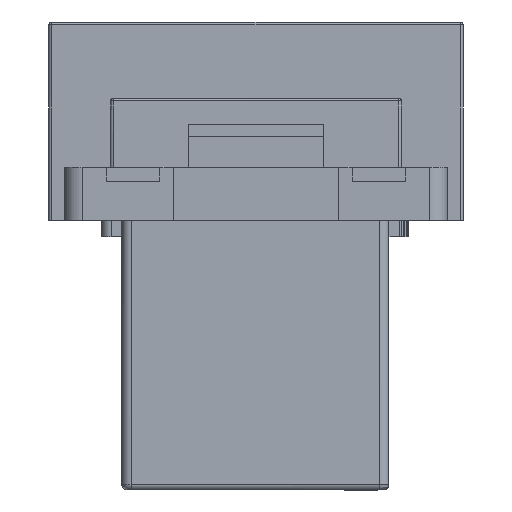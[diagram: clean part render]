
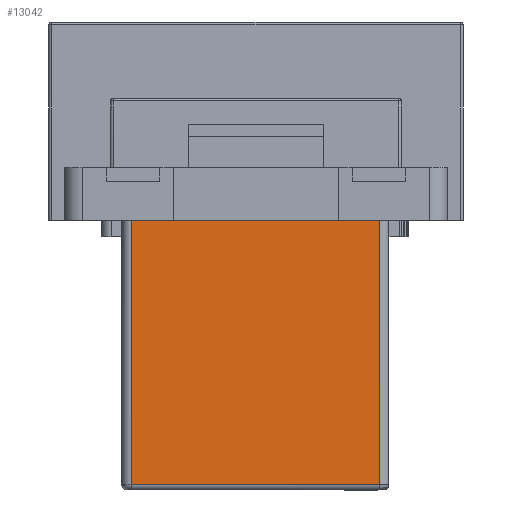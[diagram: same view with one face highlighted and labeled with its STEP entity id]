
A CAD part, front view. The second image highlights one B-rep face of the part: STEP entity #13042.
In plain terms, the highlighted free-form (B-spline) face has degree [1, 1] with [2, 2] control points.
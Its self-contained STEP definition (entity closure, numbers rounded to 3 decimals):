
#5731 = VERTEX_POINT('',#5732);
#5732 = CARTESIAN_POINT('',(7.998,2.306,0.));
#5743 = VERTEX_POINT('',#5744);
#5744 = CARTESIAN_POINT('',(7.998,12.298,0.));
#5753 = EDGE_CURVE('',#5731,#5743,#5754,.T.);
#5754 = B_SPLINE_CURVE_WITH_KNOTS('',5,(#5755,#5756,#5757,#5758,#5759,
    #5760),.UNSPECIFIED.,.F.,.F.,(6,6),(0.,9.991),
  .PIECEWISE_BEZIER_KNOTS.);
#5755 = CARTESIAN_POINT('',(7.998,2.306,0.));
#5756 = CARTESIAN_POINT('',(7.998,4.304,0.));
#5757 = CARTESIAN_POINT('',(7.998,6.303,0.));
#5758 = CARTESIAN_POINT('',(7.998,8.301,0.));
#5759 = CARTESIAN_POINT('',(7.998,10.299,0.));
#5760 = CARTESIAN_POINT('',(7.998,12.298,0.));
#5771 = VERTEX_POINT('',#5772);
#5772 = CARTESIAN_POINT('',(7.002,11.298,0.));
#5783 = VERTEX_POINT('',#5784);
#5784 = CARTESIAN_POINT('',(7.002,3.306,0.));
#5793 = EDGE_CURVE('',#5771,#5783,#5794,.T.);
#5794 = B_SPLINE_CURVE_WITH_KNOTS('',5,(#5795,#5796,#5797,#5798,#5799,
    #5800),.UNSPECIFIED.,.F.,.F.,(6,6),(0.,7.991),
  .PIECEWISE_BEZIER_KNOTS.);
#5795 = CARTESIAN_POINT('',(7.002,11.298,0.));
#5796 = CARTESIAN_POINT('',(7.002,9.699,0.));
#5797 = CARTESIAN_POINT('',(7.002,8.101,0.));
#5798 = CARTESIAN_POINT('',(7.002,6.503,0.));
#5799 = CARTESIAN_POINT('',(7.002,4.904,0.));
#5800 = CARTESIAN_POINT('',(7.002,3.306,0.));
#5811 = VERTEX_POINT('',#5812);
#5812 = CARTESIAN_POINT('',(5.502,12.298,0.));
#5823 = VERTEX_POINT('',#5824);
#5824 = CARTESIAN_POINT('',(5.502,11.298,0.));
#5833 = EDGE_CURVE('',#5811,#5823,#5834,.T.);
#5834 = B_SPLINE_CURVE_WITH_KNOTS('',5,(#5835,#5836,#5837,#5838,#5839,
    #5840),.UNSPECIFIED.,.F.,.F.,(6,6),(0.,1.),
  .PIECEWISE_BEZIER_KNOTS.);
#5835 = CARTESIAN_POINT('',(5.502,12.298,0.));
#5836 = CARTESIAN_POINT('',(5.502,12.098,0.));
#5837 = CARTESIAN_POINT('',(5.502,11.898,0.));
#5838 = CARTESIAN_POINT('',(5.502,11.698,0.));
#5839 = CARTESIAN_POINT('',(5.502,11.498,0.));
#5840 = CARTESIAN_POINT('',(5.502,11.298,0.));
#5851 = EDGE_CURVE('',#5823,#5771,#5852,.T.);
#5852 = B_SPLINE_CURVE_WITH_KNOTS('',5,(#5853,#5854,#5855,#5856,#5857,
    #5858),.UNSPECIFIED.,.F.,.F.,(6,6),(0.,1.499),
  .PIECEWISE_BEZIER_KNOTS.);
#5853 = CARTESIAN_POINT('',(5.502,11.298,0.));
#5854 = CARTESIAN_POINT('',(5.802,11.298,0.));
#5855 = CARTESIAN_POINT('',(6.102,11.298,0.));
#5856 = CARTESIAN_POINT('',(6.402,11.298,0.));
#5857 = CARTESIAN_POINT('',(6.702,11.298,0.));
#5858 = CARTESIAN_POINT('',(7.002,11.298,0.));
#5870 = EDGE_CURVE('',#5743,#5811,#5871,.T.);
#5871 = B_SPLINE_CURVE_WITH_KNOTS('',5,(#5872,#5873,#5874,#5875,#5876,
    #5877),.UNSPECIFIED.,.F.,.F.,(6,6),(0.,2.496),
  .PIECEWISE_BEZIER_KNOTS.);
#5872 = CARTESIAN_POINT('',(7.998,12.298,0.));
#5873 = CARTESIAN_POINT('',(7.499,12.298,0.));
#5874 = CARTESIAN_POINT('',(7.,12.298,0.));
#5875 = CARTESIAN_POINT('',(6.501,12.298,0.));
#5876 = CARTESIAN_POINT('',(6.001,12.298,0.));
#5877 = CARTESIAN_POINT('',(5.502,12.298,0.));
#5890 = VERTEX_POINT('',#5891);
#5891 = CARTESIAN_POINT('',(5.502,2.306,0.));
#5900 = EDGE_CURVE('',#5901,#5890,#5903,.T.);
#5901 = VERTEX_POINT('',#5902);
#5902 = CARTESIAN_POINT('',(5.502,3.306,0.));
#5903 = B_SPLINE_CURVE_WITH_KNOTS('',5,(#5904,#5905,#5906,#5907,#5908,
    #5909),.UNSPECIFIED.,.F.,.F.,(6,6),(0.,1.),
  .PIECEWISE_BEZIER_KNOTS.);
#5904 = CARTESIAN_POINT('',(5.502,3.306,0.));
#5905 = CARTESIAN_POINT('',(5.502,3.106,0.));
#5906 = CARTESIAN_POINT('',(5.502,2.906,0.));
#5907 = CARTESIAN_POINT('',(5.502,2.706,0.));
#5908 = CARTESIAN_POINT('',(5.502,2.506,0.));
#5909 = CARTESIAN_POINT('',(5.502,2.306,0.));
#5931 = EDGE_CURVE('',#5783,#5901,#5932,.T.);
#5932 = B_SPLINE_CURVE_WITH_KNOTS('',5,(#5933,#5934,#5935,#5936,#5937,
    #5938),.UNSPECIFIED.,.F.,.F.,(6,6),(0.,1.499),
  .PIECEWISE_BEZIER_KNOTS.);
#5933 = CARTESIAN_POINT('',(7.002,3.306,0.));
#5934 = CARTESIAN_POINT('',(6.702,3.306,0.));
#5935 = CARTESIAN_POINT('',(6.402,3.306,0.));
#5936 = CARTESIAN_POINT('',(6.102,3.306,0.));
#5937 = CARTESIAN_POINT('',(5.802,3.306,0.));
#5938 = CARTESIAN_POINT('',(5.502,3.306,0.));
#5948 = EDGE_CURVE('',#5890,#5731,#5949,.T.);
#5949 = B_SPLINE_CURVE_WITH_KNOTS('',5,(#5950,#5951,#5952,#5953,#5954,
    #5955),.UNSPECIFIED.,.F.,.F.,(6,6),(0.,2.496),
  .PIECEWISE_BEZIER_KNOTS.);
#5950 = CARTESIAN_POINT('',(5.502,2.306,0.));
#5951 = CARTESIAN_POINT('',(6.001,2.306,0.));
#5952 = CARTESIAN_POINT('',(6.501,2.306,0.));
#5953 = CARTESIAN_POINT('',(7.,2.306,0.));
#5954 = CARTESIAN_POINT('',(7.499,2.306,0.));
#5955 = CARTESIAN_POINT('',(7.998,2.306,0.));
#12063 = VERTEX_POINT('',#12064);
#12064 = CARTESIAN_POINT('',(24.7,0.5,0.));
#12163 = VERTEX_POINT('',#12164);
#12164 = CARTESIAN_POINT('',(24.7,14.103,0.));
#12269 = EDGE_CURVE('',#12063,#12163,#12270,.T.);
#12270 = B_SPLINE_CURVE_WITH_KNOTS('',5,(#12271,#12272,#12273,#12274,
    #12275,#12276),.UNSPECIFIED.,.F.,.F.,(6,6),(0.,13.603),
  .PIECEWISE_BEZIER_KNOTS.);
#12271 = CARTESIAN_POINT('',(24.7,0.5,0.));
#12272 = CARTESIAN_POINT('',(24.7,3.221,0.));
#12273 = CARTESIAN_POINT('',(24.7,5.941,0.));
#12274 = CARTESIAN_POINT('',(24.7,8.662,0.));
#12275 = CARTESIAN_POINT('',(24.7,11.383,0.));
#12276 = CARTESIAN_POINT('',(24.7,14.103,0.));
#12305 = VERTEX_POINT('',#12306);
#12306 = CARTESIAN_POINT('',(0.3,0.5,0.));
#12324 = EDGE_CURVE('',#12305,#12063,#12325,.T.);
#12325 = B_SPLINE_CURVE_WITH_KNOTS('',5,(#12326,#12327,#12328,#12329,
    #12330,#12331),.UNSPECIFIED.,.F.,.F.,(6,6),(0.,24.4),
  .PIECEWISE_BEZIER_KNOTS.);
#12326 = CARTESIAN_POINT('',(0.3,0.5,0.));
#12327 = CARTESIAN_POINT('',(5.18,0.5,0.));
#12328 = CARTESIAN_POINT('',(10.06,0.5,0.));
#12329 = CARTESIAN_POINT('',(14.94,0.5,0.));
#12330 = CARTESIAN_POINT('',(19.82,0.5,0.));
#12331 = CARTESIAN_POINT('',(24.7,0.5,0.));
#12526 = VERTEX_POINT('',#12527);
#12527 = CARTESIAN_POINT('',(0.3,14.103,0.));
#12545 = EDGE_CURVE('',#12526,#12305,#12546,.T.);
#12546 = B_SPLINE_CURVE_WITH_KNOTS('',5,(#12547,#12548,#12549,#12550,
    #12551,#12552),.UNSPECIFIED.,.F.,.F.,(6,6),(0.,13.603),
  .PIECEWISE_BEZIER_KNOTS.);
#12547 = CARTESIAN_POINT('',(0.3,14.103,0.));
#12548 = CARTESIAN_POINT('',(0.3,11.383,0.));
#12549 = CARTESIAN_POINT('',(0.3,8.662,0.));
#12550 = CARTESIAN_POINT('',(0.3,5.941,0.));
#12551 = CARTESIAN_POINT('',(0.3,3.221,0.));
#12552 = CARTESIAN_POINT('',(0.3,0.5,0.));
#13042 = ADVANCED_FACE('',(#13043,#13057),#13067,.T.);
#13043 = FACE_BOUND('',#13044,.T.);
#13044 = EDGE_LOOP('',(#13045,#13046,#13047,#13048));
#13045 = ORIENTED_EDGE('',*,*,#12269,.F.);
#13046 = ORIENTED_EDGE('',*,*,#12324,.F.);
#13047 = ORIENTED_EDGE('',*,*,#12545,.F.);
#13048 = ORIENTED_EDGE('',*,*,#13049,.F.);
#13049 = EDGE_CURVE('',#12163,#12526,#13050,.T.);
#13050 = B_SPLINE_CURVE_WITH_KNOTS('',5,(#13051,#13052,#13053,#13054,
    #13055,#13056),.UNSPECIFIED.,.F.,.F.,(6,6),(0.,24.4),
  .PIECEWISE_BEZIER_KNOTS.);
#13051 = CARTESIAN_POINT('',(24.7,14.103,0.));
#13052 = CARTESIAN_POINT('',(19.82,14.103,0.));
#13053 = CARTESIAN_POINT('',(14.94,14.103,0.));
#13054 = CARTESIAN_POINT('',(10.06,14.103,0.));
#13055 = CARTESIAN_POINT('',(5.18,14.103,0.));
#13056 = CARTESIAN_POINT('',(0.3,14.103,0.));
#13057 = FACE_BOUND('',#13058,.T.);
#13058 = EDGE_LOOP('',(#13059,#13060,#13061,#13062,#13063,#13064,#13065,
    #13066));
#13059 = ORIENTED_EDGE('',*,*,#5870,.T.);
#13060 = ORIENTED_EDGE('',*,*,#5833,.T.);
#13061 = ORIENTED_EDGE('',*,*,#5851,.T.);
#13062 = ORIENTED_EDGE('',*,*,#5793,.T.);
#13063 = ORIENTED_EDGE('',*,*,#5931,.T.);
#13064 = ORIENTED_EDGE('',*,*,#5900,.T.);
#13065 = ORIENTED_EDGE('',*,*,#5948,.T.);
#13066 = ORIENTED_EDGE('',*,*,#5753,.T.);
#13067 = B_SPLINE_SURFACE_WITH_KNOTS('',1,1,(
    (#13068,#13069)
    ,(#13070,#13071
    )),.UNSPECIFIED.,.F.,.F.,.F.,(2,2),(2,2),(0.,1.794),(0.,1.)
  ,.PIECEWISE_BEZIER_KNOTS.);
#13068 = CARTESIAN_POINT('',(24.7,0.5,0.));
#13069 = CARTESIAN_POINT('',(24.7,14.103,0.));
#13070 = CARTESIAN_POINT('',(0.3,0.5,0.));
#13071 = CARTESIAN_POINT('',(0.3,14.103,0.));
